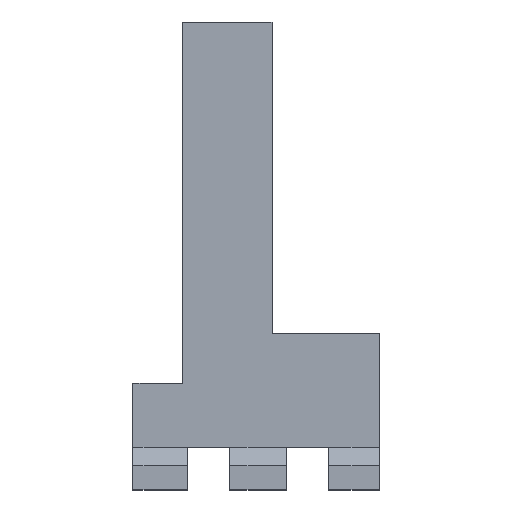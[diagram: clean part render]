
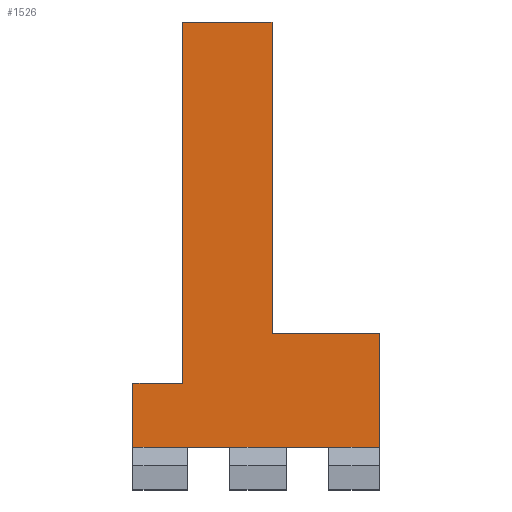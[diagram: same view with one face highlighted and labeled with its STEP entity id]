
A CAD part, top view. The second image highlights one B-rep face of the part: STEP entity #1526.
In plain terms, the highlighted planar face has unit normal (0, 0, 1).
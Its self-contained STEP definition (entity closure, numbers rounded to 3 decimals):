
#73=PLANE('',#1636);
#154=FACE_OUTER_BOUND('',#235,.T.);
#235=EDGE_LOOP('',(#1392,#1393,#1394,#1395,#1396,#1397,#1398,#1399,#1400,
#1401,#1402,#1403));
#270=LINE('',#2177,#463);
#287=LINE('',#2311,#480);
#292=LINE('',#2320,#485);
#397=LINE('',#2627,#590);
#413=LINE('',#2662,#606);
#416=LINE('',#2668,#609);
#419=LINE('',#2674,#612);
#420=LINE('',#2676,#613);
#421=LINE('',#2678,#614);
#422=LINE('',#2680,#615);
#423=LINE('',#2682,#616);
#424=LINE('',#2683,#617);
#463=VECTOR('',#1701,10.);
#480=VECTOR('',#1742,10.);
#485=VECTOR('',#1749,10.);
#590=VECTOR('',#1944,10.);
#606=VECTOR('',#1976,10.);
#609=VECTOR('',#1983,10.);
#612=VECTOR('',#1988,10.);
#613=VECTOR('',#1989,10.);
#614=VECTOR('',#1990,10.);
#615=VECTOR('',#1991,10.);
#616=VECTOR('',#1992,10.);
#617=VECTOR('',#1993,10.);
#669=VERTEX_POINT('',#2151);
#676=VERTEX_POINT('',#2165);
#697=VERTEX_POINT('',#2310);
#700=VERTEX_POINT('',#2318);
#769=VERTEX_POINT('',#2626);
#780=VERTEX_POINT('',#2661);
#781=VERTEX_POINT('',#2667);
#783=VERTEX_POINT('',#2673);
#784=VERTEX_POINT('',#2675);
#785=VERTEX_POINT('',#2677);
#786=VERTEX_POINT('',#2679);
#787=VERTEX_POINT('',#2681);
#828=EDGE_CURVE('',#676,#669,#270,.T.);
#853=EDGE_CURVE('',#697,#676,#287,.T.);
#858=EDGE_CURVE('',#669,#700,#292,.T.);
#970=EDGE_CURVE('',#769,#697,#397,.T.);
#987=EDGE_CURVE('',#780,#769,#413,.T.);
#990=EDGE_CURVE('',#781,#780,#416,.T.);
#993=EDGE_CURVE('',#783,#781,#419,.T.);
#994=EDGE_CURVE('',#700,#784,#420,.T.);
#995=EDGE_CURVE('',#784,#785,#421,.T.);
#996=EDGE_CURVE('',#785,#786,#422,.T.);
#997=EDGE_CURVE('',#786,#787,#423,.T.);
#998=EDGE_CURVE('',#787,#783,#424,.T.);
#1392=ORIENTED_EDGE('',*,*,#993,.T.);
#1393=ORIENTED_EDGE('',*,*,#990,.T.);
#1394=ORIENTED_EDGE('',*,*,#987,.T.);
#1395=ORIENTED_EDGE('',*,*,#970,.T.);
#1396=ORIENTED_EDGE('',*,*,#853,.T.);
#1397=ORIENTED_EDGE('',*,*,#828,.T.);
#1398=ORIENTED_EDGE('',*,*,#858,.T.);
#1399=ORIENTED_EDGE('',*,*,#994,.T.);
#1400=ORIENTED_EDGE('',*,*,#995,.T.);
#1401=ORIENTED_EDGE('',*,*,#996,.T.);
#1402=ORIENTED_EDGE('',*,*,#997,.T.);
#1403=ORIENTED_EDGE('',*,*,#998,.T.);
#1526=ADVANCED_FACE('',(#154),#73,.T.);
#1636=AXIS2_PLACEMENT_3D('',#2672,#1986,#1987);
#1701=DIRECTION('',(1.,0.,0.));
#1742=DIRECTION('',(1.,0.,0.));
#1749=DIRECTION('',(1.,0.,0.));
#1944=DIRECTION('',(1.,0.,0.));
#1976=DIRECTION('',(1.,0.,0.));
#1983=DIRECTION('',(0.,-1.,0.));
#1986=DIRECTION('center_axis',(0.,0.,1.));
#1987=DIRECTION('ref_axis',(1.,0.,0.));
#1988=DIRECTION('',(-1.,0.,0.));
#1989=DIRECTION('',(0.,1.,0.));
#1990=DIRECTION('',(-1.,0.,0.));
#1991=DIRECTION('',(0.,1.,0.));
#1992=DIRECTION('',(-1.,0.,0.));
#1993=DIRECTION('',(0.,-1.,0.));
#2151=CARTESIAN_POINT('',(27.68,0.,2.8));
#2165=CARTESIAN_POINT('',(21.68,0.,2.8));
#2177=CARTESIAN_POINT('',(0.,0.,2.8));
#2310=CARTESIAN_POINT('',(13.68,0.,2.8));
#2311=CARTESIAN_POINT('',(0.,0.,2.8));
#2318=CARTESIAN_POINT('',(34.76,0.,2.8));
#2320=CARTESIAN_POINT('',(0.,0.,2.8));
#2626=CARTESIAN_POINT('',(7.68,0.,2.8));
#2627=CARTESIAN_POINT('',(0.,0.,2.8));
#2661=CARTESIAN_POINT('',(0.,0.,2.8));
#2662=CARTESIAN_POINT('',(0.,0.,2.8));
#2667=CARTESIAN_POINT('',(0.,9.08,2.8));
#2668=CARTESIAN_POINT('',(0.,78.8,2.8));
#2672=CARTESIAN_POINT('Origin',(40.117,39.4,2.8));
#2673=CARTESIAN_POINT('',(7.,9.08,2.8));
#2674=CARTESIAN_POINT('',(20.058,9.08,2.8));
#2675=CARTESIAN_POINT('',(34.76,16.08,2.8));
#2676=CARTESIAN_POINT('',(34.76,27.74,2.8));
#2677=CARTESIAN_POINT('',(19.64,16.08,2.8));
#2678=CARTESIAN_POINT('',(29.878,16.08,2.8));
#2679=CARTESIAN_POINT('',(19.64,60.08,2.8));
#2680=CARTESIAN_POINT('',(19.64,49.74,2.8));
#2681=CARTESIAN_POINT('',(7.,60.08,2.8));
#2682=CARTESIAN_POINT('',(23.558,60.08,2.8));
#2683=CARTESIAN_POINT('',(7.,24.24,2.8));
